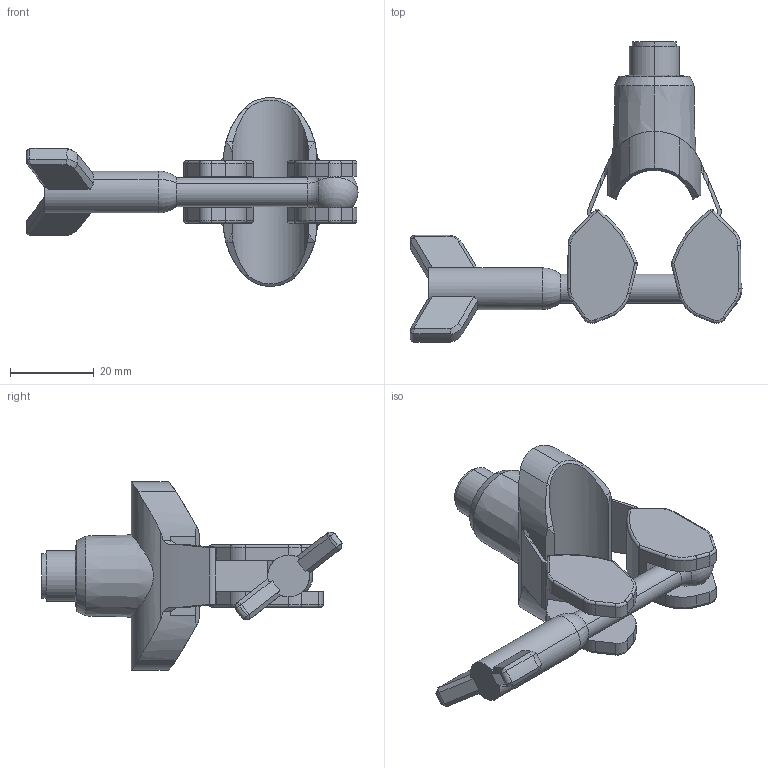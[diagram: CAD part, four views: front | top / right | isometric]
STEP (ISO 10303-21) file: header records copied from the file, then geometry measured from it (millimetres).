
FILE_DESCRIPTION (( 'STEP AP203' ), '1' );
FILE_NAME ('CAD_STP_Z_1932.STEP', '2024-07-04T08:33:51', ( '' ), ( '' ), 'SwSTEP 2.0', 'SolidWorks 2022', '' );
FILE_SCHEMA (( 'CONFIG_CONTROL_DESIGN' ));
Length unit declared in the file: millimetre
Products named in the file (3): P_MZ_Z_1932_P1; CAD_STP_Z_1932; P_MZ_Z_1933_P2
Assembly tree (2 placements, depth 2):
  CAD_STP_Z_1932
    P_MZ_Z_1932_P1
    P_MZ_Z_1933_P2
Bounding box: 79.45 x 71.85 x 45.16 mm (x, y, z)
Volume: 24978.7 mm3; surface area: 11888.5 mm2
Topology: 2 solids, 2 shells, 229 faces, 595 edges, 367 vertices
Faces by surface type: cylinder 88, plane 83, torus 29, cone 18, sphere 11
Entity records: 7397 total; most frequent: CARTESIAN_POINT 1744, ORIENTED_EDGE 1164, DIRECTION 1131, EDGE_CURVE 582, AXIS2_PLACEMENT_3D 435, VERTEX_POINT 360, LINE 261, VECTOR 261
